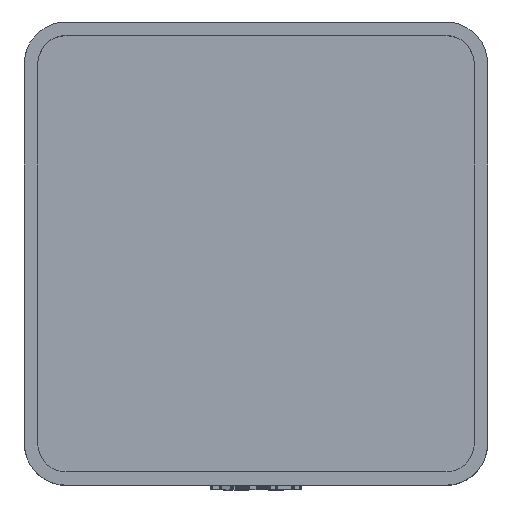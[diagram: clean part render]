
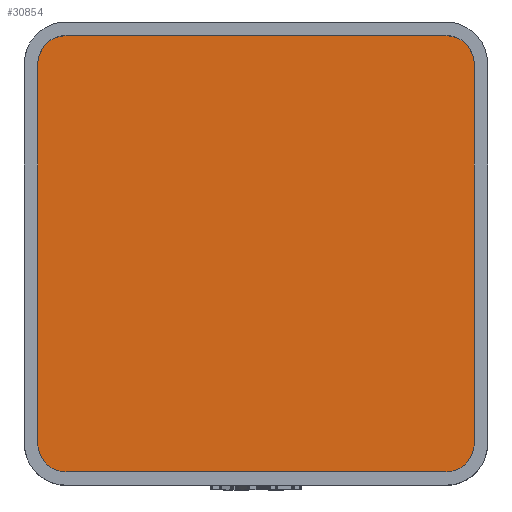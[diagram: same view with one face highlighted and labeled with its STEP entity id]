
A CAD part, top view. The second image highlights one B-rep face of the part: STEP entity #30854.
In plain terms, the highlighted planar face has unit normal (0, 0, 1).
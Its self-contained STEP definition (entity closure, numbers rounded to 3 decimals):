
#1442 = PLANE('',#1443);
#1443 = AXIS2_PLACEMENT_3D('',#1444,#1445,#1446);
#1444 = CARTESIAN_POINT('',(-19.55,-17.,4.75));
#1445 = DIRECTION('',(-1.,0.,0.));
#1446 = DIRECTION('',(0.,1.,0.));
#1474 = CYLINDRICAL_SURFACE('',#1475,2.55);
#1475 = AXIS2_PLACEMENT_3D('',#1476,#1477,#1478);
#1476 = CARTESIAN_POINT('',(-17.,17.,4.75));
#1477 = DIRECTION('',(-0.,-0.,-1.));
#1478 = DIRECTION('',(1.,0.,0.));
#1501 = PLANE('',#1502);
#1502 = AXIS2_PLACEMENT_3D('',#1503,#1504,#1505);
#1503 = CARTESIAN_POINT('',(-17.,19.55,4.75));
#1504 = DIRECTION('',(0.,1.,0.));
#1505 = DIRECTION('',(1.,0.,0.));
#1533 = CYLINDRICAL_SURFACE('',#1534,2.55);
#1534 = AXIS2_PLACEMENT_3D('',#1535,#1536,#1537);
#1535 = CARTESIAN_POINT('',(17.,17.,4.75));
#1536 = DIRECTION('',(-0.,-0.,-1.));
#1537 = DIRECTION('',(1.,0.,0.));
#1560 = PLANE('',#1561);
#1561 = AXIS2_PLACEMENT_3D('',#1562,#1563,#1564);
#1562 = CARTESIAN_POINT('',(19.55,-17.,4.75));
#1563 = DIRECTION('',(-1.,0.,0.));
#1564 = DIRECTION('',(0.,1.,0.));
#1592 = CYLINDRICAL_SURFACE('',#1593,2.55);
#1593 = AXIS2_PLACEMENT_3D('',#1594,#1595,#1596);
#1594 = CARTESIAN_POINT('',(17.,-17.,4.75));
#1595 = DIRECTION('',(-0.,-0.,-1.));
#1596 = DIRECTION('',(1.,0.,0.));
#1619 = PLANE('',#1620);
#1620 = AXIS2_PLACEMENT_3D('',#1621,#1622,#1623);
#1621 = CARTESIAN_POINT('',(-17.,-19.55,4.75));
#1622 = DIRECTION('',(0.,1.,0.));
#1623 = DIRECTION('',(1.,0.,0.));
#1649 = CYLINDRICAL_SURFACE('',#1650,2.55);
#1650 = AXIS2_PLACEMENT_3D('',#1651,#1652,#1653);
#1651 = CARTESIAN_POINT('',(-17.,-17.,4.75));
#1652 = DIRECTION('',(-0.,-0.,-1.));
#1653 = DIRECTION('',(1.,0.,0.));
#11719 = EDGE_CURVE('',#11720,#11722,#11724,.T.);
#11720 = VERTEX_POINT('',#11721);
#11721 = CARTESIAN_POINT('',(-19.55,-17.,4.75));
#11722 = VERTEX_POINT('',#11723);
#11723 = CARTESIAN_POINT('',(-19.55,17.,4.75));
#11724 = SURFACE_CURVE('',#11725,(#11729,#11736),.PCURVE_S1.);
#11725 = LINE('',#11726,#11727);
#11726 = CARTESIAN_POINT('',(-19.55,0.,4.75));
#11727 = VECTOR('',#11728,1.);
#11728 = DIRECTION('',(0.,1.,0.));
#11729 = PCURVE('',#1442,#11730);
#11730 = DEFINITIONAL_REPRESENTATION('',(#11731),#11735);
#11731 = LINE('',#11732,#11733);
#11732 = CARTESIAN_POINT('',(17.,0.));
#11733 = VECTOR('',#11734,1.);
#11734 = DIRECTION('',(1.,0.));
#11735 = ( GEOMETRIC_REPRESENTATION_CONTEXT(2) 
PARAMETRIC_REPRESENTATION_CONTEXT() REPRESENTATION_CONTEXT('2D SPACE',''
  ) );
#11736 = PCURVE('',#11737,#11742);
#11737 = PLANE('',#11738);
#11738 = AXIS2_PLACEMENT_3D('',#11739,#11740,#11741);
#11739 = CARTESIAN_POINT('',(0.,0.,4.75
    ));
#11740 = DIRECTION('',(0.,0.,1.));
#11741 = DIRECTION('',(1.,0.,-0.));
#11742 = DEFINITIONAL_REPRESENTATION('',(#11743),#11747);
#11743 = LINE('',#11744,#11745);
#11744 = CARTESIAN_POINT('',(-19.55,0.));
#11745 = VECTOR('',#11746,1.);
#11746 = DIRECTION('',(0.,1.));
#11747 = ( GEOMETRIC_REPRESENTATION_CONTEXT(2) 
PARAMETRIC_REPRESENTATION_CONTEXT() REPRESENTATION_CONTEXT('2D SPACE',''
  ) );
#11795 = EDGE_CURVE('',#11720,#11796,#11798,.T.);
#11796 = VERTEX_POINT('',#11797);
#11797 = CARTESIAN_POINT('',(-17.,-19.55,4.75));
#11798 = SURFACE_CURVE('',#11799,(#11804,#11811),.PCURVE_S1.);
#11799 = CIRCLE('',#11800,2.55);
#11800 = AXIS2_PLACEMENT_3D('',#11801,#11802,#11803);
#11801 = CARTESIAN_POINT('',(-17.,-17.,4.75));
#11802 = DIRECTION('',(0.,0.,1.));
#11803 = DIRECTION('',(1.,0.,0.));
#11804 = PCURVE('',#1649,#11805);
#11805 = DEFINITIONAL_REPRESENTATION('',(#11806),#11810);
#11806 = LINE('',#11807,#11808);
#11807 = CARTESIAN_POINT('',(-0.,0.));
#11808 = VECTOR('',#11809,1.);
#11809 = DIRECTION('',(-1.,0.));
#11810 = ( GEOMETRIC_REPRESENTATION_CONTEXT(2) 
PARAMETRIC_REPRESENTATION_CONTEXT() REPRESENTATION_CONTEXT('2D SPACE',''
  ) );
#11811 = PCURVE('',#11737,#11812);
#11812 = DEFINITIONAL_REPRESENTATION('',(#11813),#11817);
#11813 = CIRCLE('',#11814,2.55);
#11814 = AXIS2_PLACEMENT_2D('',#11815,#11816);
#11815 = CARTESIAN_POINT('',(-17.,-17.));
#11816 = DIRECTION('',(1.,0.));
#11817 = ( GEOMETRIC_REPRESENTATION_CONTEXT(2) 
PARAMETRIC_REPRESENTATION_CONTEXT() REPRESENTATION_CONTEXT('2D SPACE',''
  ) );
#11845 = EDGE_CURVE('',#11796,#11846,#11848,.T.);
#11846 = VERTEX_POINT('',#11847);
#11847 = CARTESIAN_POINT('',(17.,-19.55,4.75));
#11848 = SURFACE_CURVE('',#11849,(#11853,#11860),.PCURVE_S1.);
#11849 = LINE('',#11850,#11851);
#11850 = CARTESIAN_POINT('',(0.,-19.55,4.75));
#11851 = VECTOR('',#11852,1.);
#11852 = DIRECTION('',(1.,0.,0.));
#11853 = PCURVE('',#1619,#11854);
#11854 = DEFINITIONAL_REPRESENTATION('',(#11855),#11859);
#11855 = LINE('',#11856,#11857);
#11856 = CARTESIAN_POINT('',(17.,0.));
#11857 = VECTOR('',#11858,1.);
#11858 = DIRECTION('',(1.,0.));
#11859 = ( GEOMETRIC_REPRESENTATION_CONTEXT(2) 
PARAMETRIC_REPRESENTATION_CONTEXT() REPRESENTATION_CONTEXT('2D SPACE',''
  ) );
#11860 = PCURVE('',#11737,#11861);
#11861 = DEFINITIONAL_REPRESENTATION('',(#11862),#11866);
#11862 = LINE('',#11863,#11864);
#11863 = CARTESIAN_POINT('',(0.,-19.55));
#11864 = VECTOR('',#11865,1.);
#11865 = DIRECTION('',(1.,0.));
#11866 = ( GEOMETRIC_REPRESENTATION_CONTEXT(2) 
PARAMETRIC_REPRESENTATION_CONTEXT() REPRESENTATION_CONTEXT('2D SPACE',''
  ) );
#11894 = EDGE_CURVE('',#11846,#11895,#11897,.T.);
#11895 = VERTEX_POINT('',#11896);
#11896 = CARTESIAN_POINT('',(19.55,-17.,4.75));
#11897 = SURFACE_CURVE('',#11898,(#11903,#11910),.PCURVE_S1.);
#11898 = CIRCLE('',#11899,2.55);
#11899 = AXIS2_PLACEMENT_3D('',#11900,#11901,#11902);
#11900 = CARTESIAN_POINT('',(17.,-17.,4.75));
#11901 = DIRECTION('',(0.,0.,1.));
#11902 = DIRECTION('',(1.,0.,0.));
#11903 = PCURVE('',#1592,#11904);
#11904 = DEFINITIONAL_REPRESENTATION('',(#11905),#11909);
#11905 = LINE('',#11906,#11907);
#11906 = CARTESIAN_POINT('',(-0.,0.));
#11907 = VECTOR('',#11908,1.);
#11908 = DIRECTION('',(-1.,0.));
#11909 = ( GEOMETRIC_REPRESENTATION_CONTEXT(2) 
PARAMETRIC_REPRESENTATION_CONTEXT() REPRESENTATION_CONTEXT('2D SPACE',''
  ) );
#11910 = PCURVE('',#11737,#11911);
#11911 = DEFINITIONAL_REPRESENTATION('',(#11912),#11916);
#11912 = CIRCLE('',#11913,2.55);
#11913 = AXIS2_PLACEMENT_2D('',#11914,#11915);
#11914 = CARTESIAN_POINT('',(17.,-17.));
#11915 = DIRECTION('',(1.,0.));
#11916 = ( GEOMETRIC_REPRESENTATION_CONTEXT(2) 
PARAMETRIC_REPRESENTATION_CONTEXT() REPRESENTATION_CONTEXT('2D SPACE',''
  ) );
#11944 = EDGE_CURVE('',#11895,#11945,#11947,.T.);
#11945 = VERTEX_POINT('',#11946);
#11946 = CARTESIAN_POINT('',(19.55,17.,4.75));
#11947 = SURFACE_CURVE('',#11948,(#11952,#11959),.PCURVE_S1.);
#11948 = LINE('',#11949,#11950);
#11949 = CARTESIAN_POINT('',(19.55,0.,4.75));
#11950 = VECTOR('',#11951,1.);
#11951 = DIRECTION('',(0.,1.,0.));
#11952 = PCURVE('',#1560,#11953);
#11953 = DEFINITIONAL_REPRESENTATION('',(#11954),#11958);
#11954 = LINE('',#11955,#11956);
#11955 = CARTESIAN_POINT('',(17.,0.));
#11956 = VECTOR('',#11957,1.);
#11957 = DIRECTION('',(1.,0.));
#11958 = ( GEOMETRIC_REPRESENTATION_CONTEXT(2) 
PARAMETRIC_REPRESENTATION_CONTEXT() REPRESENTATION_CONTEXT('2D SPACE',''
  ) );
#11959 = PCURVE('',#11737,#11960);
#11960 = DEFINITIONAL_REPRESENTATION('',(#11961),#11965);
#11961 = LINE('',#11962,#11963);
#11962 = CARTESIAN_POINT('',(19.55,0.));
#11963 = VECTOR('',#11964,1.);
#11964 = DIRECTION('',(0.,1.));
#11965 = ( GEOMETRIC_REPRESENTATION_CONTEXT(2) 
PARAMETRIC_REPRESENTATION_CONTEXT() REPRESENTATION_CONTEXT('2D SPACE',''
  ) );
#11993 = EDGE_CURVE('',#11945,#11994,#11996,.T.);
#11994 = VERTEX_POINT('',#11995);
#11995 = CARTESIAN_POINT('',(17.,19.55,4.75));
#11996 = SURFACE_CURVE('',#11997,(#12002,#12009),.PCURVE_S1.);
#11997 = CIRCLE('',#11998,2.55);
#11998 = AXIS2_PLACEMENT_3D('',#11999,#12000,#12001);
#11999 = CARTESIAN_POINT('',(17.,17.,4.75));
#12000 = DIRECTION('',(0.,0.,1.));
#12001 = DIRECTION('',(1.,0.,0.));
#12002 = PCURVE('',#1533,#12003);
#12003 = DEFINITIONAL_REPRESENTATION('',(#12004),#12008);
#12004 = LINE('',#12005,#12006);
#12005 = CARTESIAN_POINT('',(-0.,0.));
#12006 = VECTOR('',#12007,1.);
#12007 = DIRECTION('',(-1.,0.));
#12008 = ( GEOMETRIC_REPRESENTATION_CONTEXT(2) 
PARAMETRIC_REPRESENTATION_CONTEXT() REPRESENTATION_CONTEXT('2D SPACE',''
  ) );
#12009 = PCURVE('',#11737,#12010);
#12010 = DEFINITIONAL_REPRESENTATION('',(#12011),#12015);
#12011 = CIRCLE('',#12012,2.55);
#12012 = AXIS2_PLACEMENT_2D('',#12013,#12014);
#12013 = CARTESIAN_POINT('',(17.,17.));
#12014 = DIRECTION('',(1.,0.));
#12015 = ( GEOMETRIC_REPRESENTATION_CONTEXT(2) 
PARAMETRIC_REPRESENTATION_CONTEXT() REPRESENTATION_CONTEXT('2D SPACE',''
  ) );
#12043 = EDGE_CURVE('',#12044,#11994,#12046,.T.);
#12044 = VERTEX_POINT('',#12045);
#12045 = CARTESIAN_POINT('',(-17.,19.55,4.75));
#12046 = SURFACE_CURVE('',#12047,(#12051,#12058),.PCURVE_S1.);
#12047 = LINE('',#12048,#12049);
#12048 = CARTESIAN_POINT('',(0.,19.55,4.75));
#12049 = VECTOR('',#12050,1.);
#12050 = DIRECTION('',(1.,0.,0.));
#12051 = PCURVE('',#1501,#12052);
#12052 = DEFINITIONAL_REPRESENTATION('',(#12053),#12057);
#12053 = LINE('',#12054,#12055);
#12054 = CARTESIAN_POINT('',(17.,0.));
#12055 = VECTOR('',#12056,1.);
#12056 = DIRECTION('',(1.,0.));
#12057 = ( GEOMETRIC_REPRESENTATION_CONTEXT(2) 
PARAMETRIC_REPRESENTATION_CONTEXT() REPRESENTATION_CONTEXT('2D SPACE',''
  ) );
#12058 = PCURVE('',#11737,#12059);
#12059 = DEFINITIONAL_REPRESENTATION('',(#12060),#12064);
#12060 = LINE('',#12061,#12062);
#12061 = CARTESIAN_POINT('',(0.,19.55));
#12062 = VECTOR('',#12063,1.);
#12063 = DIRECTION('',(1.,0.));
#12064 = ( GEOMETRIC_REPRESENTATION_CONTEXT(2) 
PARAMETRIC_REPRESENTATION_CONTEXT() REPRESENTATION_CONTEXT('2D SPACE',''
  ) );
#12092 = EDGE_CURVE('',#12044,#11722,#12093,.T.);
#12093 = SURFACE_CURVE('',#12094,(#12099,#12106),.PCURVE_S1.);
#12094 = CIRCLE('',#12095,2.55);
#12095 = AXIS2_PLACEMENT_3D('',#12096,#12097,#12098);
#12096 = CARTESIAN_POINT('',(-17.,17.,4.75));
#12097 = DIRECTION('',(0.,0.,1.));
#12098 = DIRECTION('',(1.,0.,0.));
#12099 = PCURVE('',#1474,#12100);
#12100 = DEFINITIONAL_REPRESENTATION('',(#12101),#12105);
#12101 = LINE('',#12102,#12103);
#12102 = CARTESIAN_POINT('',(-0.,0.));
#12103 = VECTOR('',#12104,1.);
#12104 = DIRECTION('',(-1.,0.));
#12105 = ( GEOMETRIC_REPRESENTATION_CONTEXT(2) 
PARAMETRIC_REPRESENTATION_CONTEXT() REPRESENTATION_CONTEXT('2D SPACE',''
  ) );
#12106 = PCURVE('',#11737,#12107);
#12107 = DEFINITIONAL_REPRESENTATION('',(#12108),#12112);
#12108 = CIRCLE('',#12109,2.55);
#12109 = AXIS2_PLACEMENT_2D('',#12110,#12111);
#12110 = CARTESIAN_POINT('',(-17.,17.));
#12111 = DIRECTION('',(1.,0.));
#12112 = ( GEOMETRIC_REPRESENTATION_CONTEXT(2) 
PARAMETRIC_REPRESENTATION_CONTEXT() REPRESENTATION_CONTEXT('2D SPACE',''
  ) );
#30854 = ADVANCED_FACE('',(#30855),#11737,.T.);
#30855 = FACE_BOUND('',#30856,.T.);
#30856 = EDGE_LOOP('',(#30857,#30858,#30859,#30860,#30861,#30862,#30863,
    #30864));
#30857 = ORIENTED_EDGE('',*,*,#11719,.F.);
#30858 = ORIENTED_EDGE('',*,*,#11795,.T.);
#30859 = ORIENTED_EDGE('',*,*,#11845,.T.);
#30860 = ORIENTED_EDGE('',*,*,#11894,.T.);
#30861 = ORIENTED_EDGE('',*,*,#11944,.T.);
#30862 = ORIENTED_EDGE('',*,*,#11993,.T.);
#30863 = ORIENTED_EDGE('',*,*,#12043,.F.);
#30864 = ORIENTED_EDGE('',*,*,#12092,.T.);
